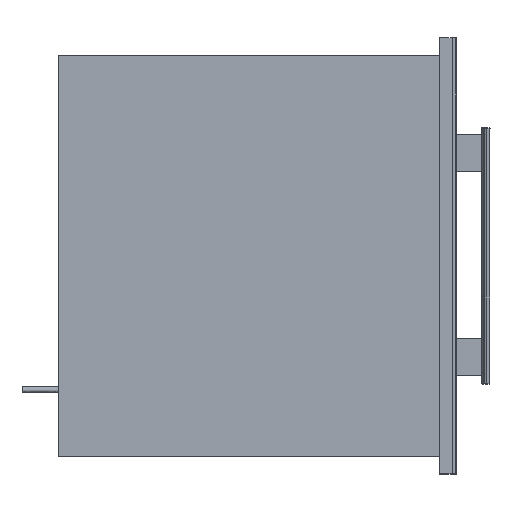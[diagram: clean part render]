
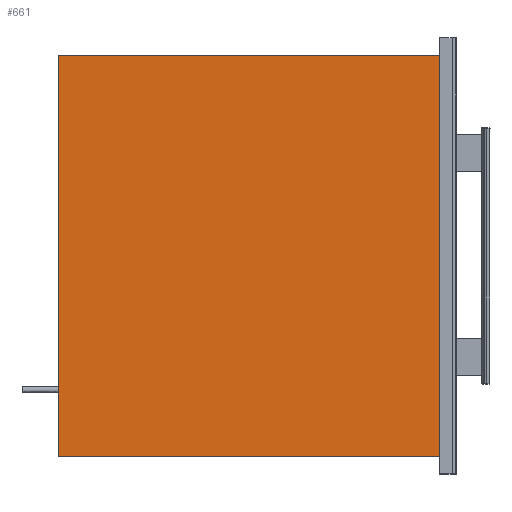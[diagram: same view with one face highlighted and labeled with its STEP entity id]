
A CAD part, top view. The second image highlights one B-rep face of the part: STEP entity #661.
In plain terms, the highlighted free-form (B-spline) face has degree [1, 1] with [2, 2] control points.
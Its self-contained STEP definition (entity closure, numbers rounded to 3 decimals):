
#661=ADVANCED_FACE('',(#924),#3114,.T.);
#924=FACE_OUTER_BOUND('',#1189,.T.);
#1189=EDGE_LOOP('',(#1888,#1889,#1890,#1891));
#1888=ORIENTED_EDGE('',*,*,#2539,.T.);
#1889=ORIENTED_EDGE('',*,*,#2535,.T.);
#1890=ORIENTED_EDGE('',*,*,#2538,.F.);
#1891=ORIENTED_EDGE('',*,*,#2532,.F.);
#2532=EDGE_CURVE('',#2912,#2913,#3327,.T.);
#2535=EDGE_CURVE('',#2914,#2915,#3330,.T.);
#2538=EDGE_CURVE('',#2913,#2915,#3333,.T.);
#2539=EDGE_CURVE('',#2912,#2914,#3334,.T.);
#2912=VERTEX_POINT('',#12390);
#2913=VERTEX_POINT('',#12391);
#2914=VERTEX_POINT('',#12392);
#2915=VERTEX_POINT('',#12393);
#3114=B_SPLINE_SURFACE_WITH_KNOTS('',1,1,((#12366,#12367),(#12368,#12369)),
.UNSPECIFIED.,.F.,.F.,.F.,(2,2),(2,2),(0.048,0.96),
(0.075,0.943),.UNSPECIFIED.);
#3327=B_SPLINE_CURVE_WITH_KNOTS('',3,(#12238,#12239,#12240,#12241),.UNSPECIFIED.,
.F.,.F.,(4,4),(23.843,571.345),.UNSPECIFIED.);
#3330=B_SPLINE_CURVE_WITH_KNOTS('',1,(#12256,#12257),.UNSPECIFIED.,.F.,.F.,
(2,2),(0.04,0.952),.UNSPECIFIED.);
#3333=B_SPLINE_CURVE_WITH_KNOTS('',1,(#12262,#12263),.UNSPECIFIED.,.F.,.F.,
(2,2),(0.075,0.943),.UNSPECIFIED.);
#3334=B_SPLINE_CURVE_WITH_KNOTS('',1,(#12264,#12265),.UNSPECIFIED.,.F.,.F.,
(2,2),(0.075,0.943),.UNSPECIFIED.);
#12238=CARTESIAN_POINT('',(-520.591,-273.752,445.023));
#12239=CARTESIAN_POINT('',(-520.591,-91.251,445.023));
#12240=CARTESIAN_POINT('',(-520.591,91.249,445.023));
#12241=CARTESIAN_POINT('',(-520.591,273.75,445.023));
#12256=CARTESIAN_POINT('',(-0.091,-273.752,445.023));
#12257=CARTESIAN_POINT('',(-0.091,273.75,445.023));
#12262=CARTESIAN_POINT('',(-520.591,273.75,445.023));
#12263=CARTESIAN_POINT('',(-0.091,273.75,445.023));
#12264=CARTESIAN_POINT('',(-520.591,-273.752,445.023));
#12265=CARTESIAN_POINT('',(-0.091,-273.752,445.023));
#12366=CARTESIAN_POINT('',(-520.591,273.75,445.023));
#12367=CARTESIAN_POINT('',(-0.091,273.75,445.023));
#12368=CARTESIAN_POINT('',(-520.591,-273.752,445.023));
#12369=CARTESIAN_POINT('',(-0.091,-273.752,445.023));
#12390=CARTESIAN_POINT('',(-520.591,-273.752,445.023));
#12391=CARTESIAN_POINT('',(-520.591,273.75,445.023));
#12392=CARTESIAN_POINT('',(-0.091,-273.752,445.023));
#12393=CARTESIAN_POINT('',(-0.091,273.75,445.023));
